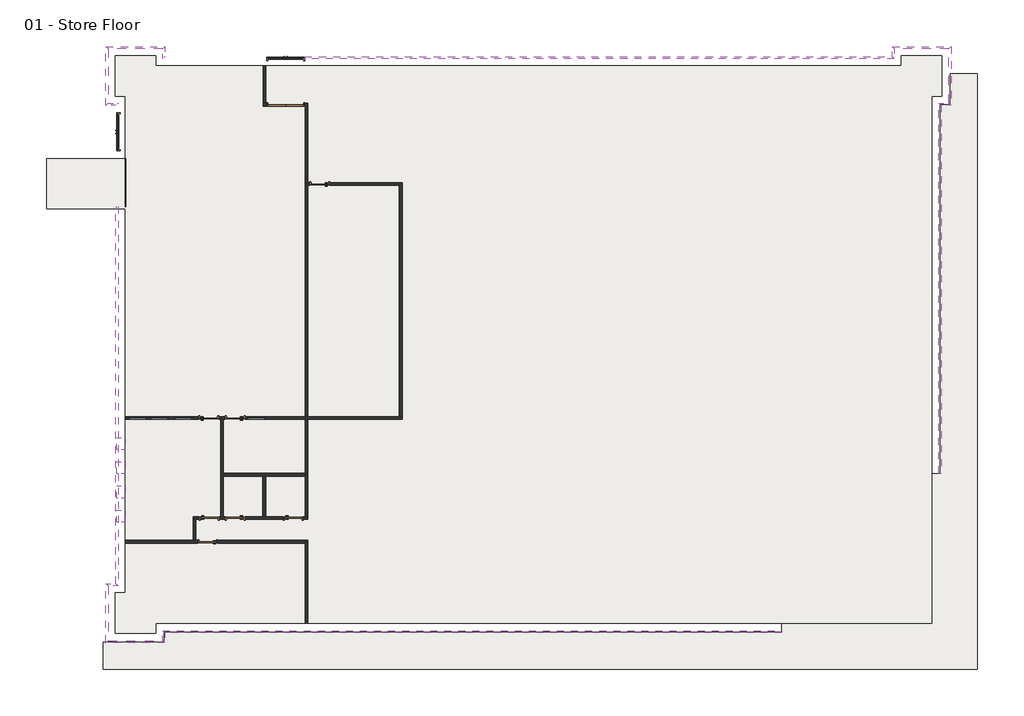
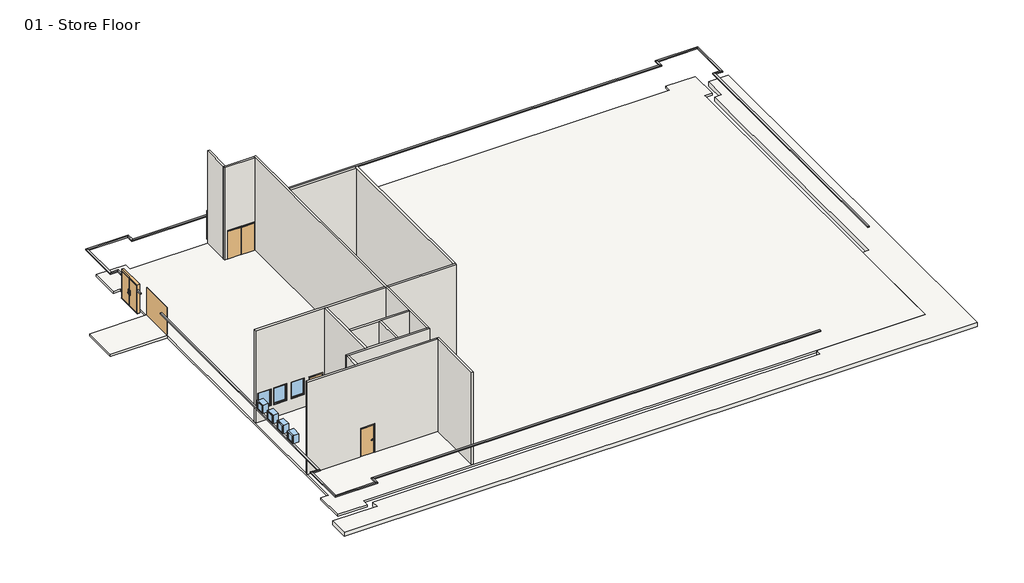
# One storey: 16 proxies, 13 walls, 11 doors, 8 windows, 2 slabs.
"""IFC4 building model written with IfcOpenShell, lengths in millimetres."""

from ifc_helpers import new_model, si_unit, frame, origin, origin_with_axes, place, context, project, spatial, polyline, outline, extrude, faceted_brep, transform, mapped, element, save
from components import m_door_exterior_double_1800_x_2000mm_23919ed1, m_door_exterior_double_1800_x_2000mm_bb9cb4d2, m_door_overhead_sectional_2400_x_2000mm_2e2bb5a0, m_door_passage_double_flush_dbl_acting_1800_x_2000mm_08d7c2af, m_door_passage_single_flush_900_x_2000mm_14e2eb9a, m_door_passage_single_flush_900_x_2000mm_70bd3cdf, m_fixed_0915_x_1220mm_bac45195, m_fixed_610_x_610mm_e5dd5360

model = new_model("IFC4")

# Units and contexts
model_context = context("Model", 3, world=origin())
ifc_project = project(units=[si_unit("LENGTHUNIT", "METRE", prefix="MILLI")], contexts=[model_context])

# Site, building, storey
site = spatial("IfcSite", under=ifc_project)
building = spatial("IfcBuilding", under=site)
storey = spatial("IfcBuildingStorey", under=building, Name="01 - Store Floor", Elevation=0.0)

# Proxies
placement = place(None, origin())
element("IfcBuildingElementProxy", 1, Name="Reveals", at=placement, inside=storey, context=model_context, shape_type="SweptSolid", body=[
    extrude(outline(polyline([(10855.5272279, -14331.9313057), (10855.5272279, -14434.4313057), (-20003.9727721, -14434.4313057), (-20106.4727721, -14331.9313057), (10855.5272279, -14331.9313057)])), frame((0.0, 0.0, 1675.0), z_axis=(0.0, 0.0, 1.0), x_axis=(1.0, 0.0, 0.0)), (0.0, 0.0, 1.0), 75.0),
])
element("IfcBuildingElementProxy", 2, Name="Reveals", at=placement, inside=storey, context=model_context, shape_type="SweptSolid", body=[
    extrude(outline(polyline([(-20106.4727721, -14331.9313057), (-20003.9727721, -14434.4313057), (-20003.9727721, -14934.2313057), (-20106.4727721, -14831.7313057), (-20106.4727721, -14331.9313057)])), frame((0.0, 0.0, 1675.0), z_axis=(0.0, 0.0, 1.0), x_axis=(1.0, 0.0, 0.0)), (0.0, 0.0, 1.0), 75.0),
])
element("IfcBuildingElementProxy", 3, Name="Reveals", at=placement, inside=storey, context=model_context, shape_type="SweptSolid", body=[
    extrude(outline(polyline([(-20106.4727721, -14831.7313057), (-20003.9727721, -14934.2313057), (-22946.9727721, -14934.2313057), (-22844.4727721, -14831.7313057), (-20106.4727721, -14831.7313057)])), frame((0.0, 0.0, 1675.0), z_axis=(0.0, 0.0, 1.0), x_axis=(1.0, 0.0, 0.0)), (0.0, 0.0, 1.0), 75.0),
])
element("IfcBuildingElementProxy", 4, Name="Reveals", at=placement, inside=storey, context=model_context, shape_type="SweptSolid", body=[
    extrude(outline(polyline([(-22844.4727721, -14831.7313057), (-22946.9727721, -14934.2313057), (-22946.9727721, -11991.2313057), (-22844.4727721, -12093.7313057), (-22844.4727721, -14831.7313057)])), frame((0.0, 0.0, 1675.0), z_axis=(0.0, 0.0, 1.0), x_axis=(1.0, 0.0, 0.0)), (0.0, 0.0, 1.0), 75.0),
])
element("IfcBuildingElementProxy", 5, Name="Reveals", at=placement, inside=storey, context=model_context, shape_type="SweptSolid", body=[
    extrude(outline(polyline([(-22844.4727721, -12093.7313057), (-22946.9727721, -11991.2313057), (-22446.9727721, -11991.2313057), (-22344.4727721, -12093.7313057), (-22844.4727721, -12093.7313057)])), frame((0.0, 0.0, 1675.0), z_axis=(0.0, 0.0, 1.0), x_axis=(1.0, 0.0, 0.0)), (0.0, 0.0, 1.0), 75.0),
])
element("IfcBuildingElementProxy", 6, Name="Reveals", at=placement, inside=storey, context=model_context, shape_type="SweptSolid", body=[
    extrude(outline(polyline([(-22344.4727721, 11555.0686943), (-22446.9727721, 11555.0686943), (-22446.9727721, 11927.5686943), (-22344.4727721, 12030.0686943), (-22344.4727721, 11555.0686943)])), frame((0.0, 0.0, 1675.0), z_axis=(0.0, 0.0, 1.0), x_axis=(1.0, 0.0, 0.0)), (0.0, 0.0, 1.0), 75.0),
    extrude(outline(polyline([(-22344.4727721, 9255.0686943), (-22446.9727721, 9255.0686943), (-22446.9727721, 9655.0686943), (-22344.4727721, 9655.0686943), (-22344.4727721, 9255.0686943)])), frame((0.0, 0.0, 1675.0), z_axis=(0.0, 0.0, 1.0), x_axis=(1.0, 0.0, 0.0)), (0.0, 0.0, 1.0), 75.0),
    extrude(outline(polyline([(-22344.4727721, -12093.7313057), (-22446.9727721, -11991.2313057), (-22446.9727721, 6855.0686943), (-22344.4727721, 6855.0686943), (-22344.4727721, -12093.7313057)])), frame((0.0, 0.0, 1675.0), z_axis=(0.0, 0.0, 1.0), x_axis=(1.0, 0.0, 0.0)), (0.0, 0.0, 1.0), 75.0),
])
element("IfcBuildingElementProxy", 7, Name="Reveals", at=placement, inside=storey, context=model_context, shape_type="SweptSolid", body=[
    extrude(outline(polyline([(-22344.4727721, 12030.0686943), (-22446.9727721, 11927.5686943), (-22946.9727721, 11927.5686943), (-22844.4727721, 12030.0686943), (-22344.4727721, 12030.0686943)])), frame((0.0, 0.0, 1675.0), z_axis=(0.0, 0.0, 1.0), x_axis=(1.0, 0.0, 0.0)), (0.0, 0.0, 1.0), 75.0),
])
element("IfcBuildingElementProxy", 8, Name="Reveals", at=placement, inside=storey, context=model_context, shape_type="SweptSolid", body=[
    extrude(outline(polyline([(-22844.4727721, 12030.0686943), (-22946.9727721, 11927.5686943), (-22946.9727721, 14870.5686943), (-22844.4727721, 14768.0686943), (-22844.4727721, 12030.0686943)])), frame((0.0, 0.0, 1675.0), z_axis=(0.0, 0.0, 1.0), x_axis=(1.0, 0.0, 0.0)), (0.0, 0.0, 1.0), 75.0),
])
element("IfcBuildingElementProxy", 9, Name="Reveals", at=placement, inside=storey, context=model_context, shape_type="SweptSolid", body=[
    extrude(outline(polyline([(-22844.4727721, 14768.0686943), (-22946.9727721, 14870.5686943), (-20003.9727721, 14870.5686943), (-20106.4727721, 14768.0686943), (-22844.4727721, 14768.0686943)])), frame((0.0, 0.0, 1675.0), z_axis=(0.0, 0.0, 1.0), x_axis=(1.0, 0.0, 0.0)), (0.0, 0.0, 1.0), 75.0),
])
element("IfcBuildingElementProxy", 10, Name="Reveals", at=placement, inside=storey, context=model_context, shape_type="SweptSolid", body=[
    extrude(outline(polyline([(-20106.4727721, 14768.0686943), (-20003.9727721, 14870.5686943), (-20003.9727721, 14370.5686943), (-20106.4727721, 14268.0686943), (-20106.4727721, 14768.0686943)])), frame((0.0, 0.0, 1675.0), z_axis=(0.0, 0.0, 1.0), x_axis=(1.0, 0.0, 0.0)), (0.0, 0.0, 1.0), 75.0),
])
element("IfcBuildingElementProxy", 11, Name="Reveals", at=placement, inside=storey, context=model_context, shape_type="SweptSolid", body=[
    extrude(outline(polyline([(-13012.4227721, 14268.0686943), (-13012.4227721, 14370.5686943), (16365.0272279, 14370.5686943), (16467.5272279, 14268.0686943), (-13012.4227721, 14268.0686943)])), frame((0.0, 0.0, 1675.0), z_axis=(0.0, 0.0, 1.0), x_axis=(1.0, 0.0, 0.0)), (0.0, 0.0, 1.0), 75.0),
    extrude(outline(polyline([(-20106.4727721, 14268.0686943), (-20003.9727721, 14370.5686943), (-14912.4227721, 14370.5686943), (-14912.4227721, 14268.0686943), (-20106.4727721, 14268.0686943)])), frame((0.0, 0.0, 1675.0), z_axis=(0.0, 0.0, 1.0), x_axis=(1.0, 0.0, 0.0)), (0.0, 0.0, 1.0), 75.0),
])
element("IfcBuildingElementProxy", 12, Name="Reveals", at=placement, inside=storey, context=model_context, shape_type="SweptSolid", body=[
    extrude(outline(polyline([(16467.5272279, 14268.0686943), (16365.0272279, 14370.5686943), (16365.0272279, 14870.5686943), (16467.5272279, 14768.0686943), (16467.5272279, 14268.0686943)])), frame((0.0, 0.0, 1675.0), z_axis=(0.0, 0.0, 1.0), x_axis=(1.0, 0.0, 0.0)), (0.0, 0.0, 1.0), 75.0),
])
element("IfcBuildingElementProxy", 13, Name="Reveals", at=placement, inside=storey, context=model_context, shape_type="SweptSolid", body=[
    extrude(outline(polyline([(16467.5272279, 14768.0686943), (16365.0272279, 14870.5686943), (19308.0272279, 14870.5686943), (19205.5272279, 14768.0686943), (16467.5272279, 14768.0686943)])), frame((0.0, 0.0, 1675.0), z_axis=(0.0, 0.0, 1.0), x_axis=(1.0, 0.0, 0.0)), (0.0, 0.0, 1.0), 75.0),
])
element("IfcBuildingElementProxy", 14, Name="Reveals", at=placement, inside=storey, context=model_context, shape_type="SweptSolid", body=[
    extrude(outline(polyline([(19205.5272279, 14768.0686943), (19308.0272279, 14870.5686943), (19308.0272279, 11927.5686943), (19205.5272279, 12030.0686943), (19205.5272279, 14768.0686943)])), frame((0.0, 0.0, 1675.0), z_axis=(0.0, 0.0, 1.0), x_axis=(1.0, 0.0, 0.0)), (0.0, 0.0, 1.0), 75.0),
])
element("IfcBuildingElementProxy", 15, Name="Reveals", at=placement, inside=storey, context=model_context, shape_type="SweptSolid", body=[
    extrude(outline(polyline([(19205.5272279, 12030.0686943), (19308.0272279, 11927.5686943), (18808.0272279, 11927.5686943), (18705.5272279, 12030.0686943), (19205.5272279, 12030.0686943)])), frame((0.0, 0.0, 1675.0), z_axis=(0.0, 0.0, 1.0), x_axis=(1.0, 0.0, 0.0)), (0.0, 0.0, 1.0), 75.0),
])
element("IfcBuildingElementProxy", 16, Name="Reveals", at=placement, inside=storey, context=model_context, shape_type="SweptSolid", body=[
    extrude(outline(polyline([(18705.5272279, 12030.0686943), (18808.0272279, 11927.5686943), (18808.0272279, -6481.9313057), (18705.5272279, -6481.9313057), (18705.5272279, 12030.0686943)])), frame((0.0, 0.0, 1675.0), z_axis=(0.0, 0.0, 1.0), x_axis=(1.0, 0.0, 0.0)), (0.0, 0.0, 1.0), 75.0),
])

# Doors
m_door_exterior_double_1800_x_2000mm_shape = m_door_exterior_double_1800_x_2000mm_23919ed1(model_context)
element("IfcDoor", 17, ObjectType="M_Door-Exterior-Double : 1800 x 2000mm", at=placement, inside=storey, context=model_context, shape_type="MappedRepresentation", body=[
    mapped(m_door_exterior_double_1800_x_2000mm_shape, transform((-13962.4227721, 14122.2186943, 0.0), x_axis=(-1.0, 0.0, 0.0), y_axis=(0.0, -1.0, 0.0), z_axis=(0.0, 0.0, 1.0))),
])
m_door_exterior_double_1800_x_2000mm_2_shape = m_door_exterior_double_1800_x_2000mm_bb9cb4d2(model_context)
element("IfcDoor", 18, ObjectType="M_Door-Exterior-Double : 1800 x 2000mm", at=placement, inside=storey, context=model_context, shape_type="MappedRepresentation", body=[
    mapped(m_door_exterior_double_1800_x_2000mm_2_shape, transform((-22198.6227721, 10605.0686943, 0.0), x_axis=(0.0, 1.0, 0.0), y_axis=(-1.0, 0.0, 0.0), z_axis=(0.0, 0.0, 1.0))),
])
m_door_overhead_sectional_2400_x_2000mm_shape = m_door_overhead_sectional_2400_x_2000mm_2e2bb5a0(model_context)
element("IfcDoor", 19, ObjectType="M_Door-Overhead-Sectional : 2400 x 2000mm", at=placement, inside=storey, context=model_context, shape_type="MappedRepresentation", body=[
    mapped(m_door_overhead_sectional_2400_x_2000mm_shape, transform((-22204.9727721, 8055.0686943, 0.0), x_axis=(0.0, 1.0, 0.0), y_axis=(-1.0, 0.0, 0.0), z_axis=(0.0, 0.0, 1.0))),
])
m_door_passage_double_flush_dbl_acting_1800_x_2000mm_shape = m_door_passage_double_flush_dbl_acting_1800_x_2000mm_08d7c2af(model_context)
element("IfcDoor", 20, ObjectType="M_Door-Passage-Double-Flush-Dbl_Acting : 1800 x 2000mm", at=placement, inside=storey, context=model_context, shape_type="MappedRepresentation", body=[
    mapped(m_door_passage_double_flush_dbl_acting_1800_x_2000mm_shape, transform((-13959.9477721, 11961.4186943, 0.0), x_axis=(-1.0, 0.0, 0.0), y_axis=(0.0, -1.0, 0.0), z_axis=(0.0, 0.0, 1.0))),
])
m_door_passage_single_flush_900_x_2000mm_shape = m_door_passage_single_flush_900_x_2000mm_14e2eb9a(model_context)
element("IfcDoor", 21, ObjectType="M_Door-Passage-Single-Flush : 900 x 2000mm", at=placement, inside=storey, context=model_context, shape_type="MappedRepresentation", body=[
    mapped(m_door_passage_single_flush_900_x_2000mm_shape, transform((-17819.4727721, -3700.5813057, 0.0), x_axis=(1.0, 0.0, 0.0), y_axis=(0.0, 1.0, 0.0), z_axis=(0.0, 0.0, 1.0))),
])
element("IfcDoor", 22, ObjectType="M_Door-Passage-Single-Flush : 900 x 2000mm", at=placement, inside=storey, context=model_context, shape_type="MappedRepresentation", body=[
    mapped(m_door_passage_single_flush_900_x_2000mm_shape, transform((-16480.9727721, -8713.2813057, 0.0), x_axis=(-1.0, 0.0, 0.0), y_axis=(0.0, -1.0, 0.0), z_axis=(0.0, 0.0, 1.0))),
])
m_door_passage_single_flush_900_x_2000mm_2_shape = m_door_passage_single_flush_900_x_2000mm_70bd3cdf(model_context)
element("IfcDoor", 23, ObjectType="M_Door-Passage-Single-Flush : 900 x 2000mm", at=placement, inside=storey, context=model_context, shape_type="MappedRepresentation", body=[
    mapped(m_door_passage_single_flush_900_x_2000mm_2_shape, transform((-16480.9727721, -3700.5813057, 0.0), x_axis=(-1.0, 0.0, 0.0), y_axis=(0.0, -1.0, 0.0), z_axis=(0.0, 0.0, 1.0))),
])
element("IfcDoor", 24, ObjectType="M_Door-Passage-Single-Flush : 900 x 2000mm", at=placement, inside=storey, context=model_context, shape_type="MappedRepresentation", body=[
    mapped(m_door_passage_single_flush_900_x_2000mm_2_shape, transform((-13588.7227721, -8713.2813057, 0.0), x_axis=(1.0, 0.0, 0.0), y_axis=(0.0, 1.0, 0.0), z_axis=(0.0, 0.0, 1.0))),
])
element("IfcDoor", 25, ObjectType="M_Door-Passage-Single-Flush : 900 x 2000mm", at=placement, inside=storey, context=model_context, shape_type="MappedRepresentation", body=[
    mapped(m_door_passage_single_flush_900_x_2000mm_2_shape, transform((-17795.5977721, -8713.2813057, 0.0), x_axis=(1.0, 0.0, 0.0), y_axis=(0.0, 1.0, 0.0), z_axis=(0.0, 0.0, 1.0))),
])
element("IfcDoor", 26, ObjectType="M_Door-Passage-Single-Flush : 900 x 2000mm", at=placement, inside=storey, context=model_context, shape_type="MappedRepresentation", body=[
    mapped(m_door_passage_single_flush_900_x_2000mm_2_shape, transform((-17850.2227721, -9889.0813057, 0.0), x_axis=(-1.0, 0.0, 0.0), y_axis=(0.0, -1.0, 0.0), z_axis=(0.0, 0.0, 1.0))),
])
element("IfcDoor", 27, ObjectType="M_Door-Passage-Single-Flush : 900 x 2000mm", at=placement, inside=storey, context=model_context, shape_type="MappedRepresentation", body=[
    mapped(m_door_passage_single_flush_900_x_2000mm_2_shape, transform((-12250.2227721, 7999.4186943, 0.0), x_axis=(-1.0, 0.0, 0.0), y_axis=(0.0, -1.0, 0.0), z_axis=(0.0, 0.0, 1.0))),
])

# Slabs
element("IfcSlab", 28, ObjectType="Generic 150mm", at=placement, inside=storey, context=model_context, shape_type="SweptSolid", body=[
    extrude(outline(polyline([(16821.5272279, 13914.0686943), (16821.5272279, 14414.0686943), (18851.5272279, 14414.0686943), (18851.5272279, 12384.0686943), (18351.5272279, 12384.0686943), (18351.5272279, -6481.9313057), (18351.5272279, -13977.9313057), (10855.5272279, -13977.9313057), (-20460.4727721, -13977.9313057), (-20460.4727721, -14477.7313057), (-22490.4727721, -14477.7313057), (-22490.4727721, -12447.7313057), (-21990.4727721, -12447.7313057), (-21990.4727721, 6772.0686943), (-25919.4727721, 6772.0686943), (-25919.4727721, 9272.0686943), (-21990.4727721, 9272.0686943), (-21990.4727721, 12384.0686943), (-22490.4727721, 12384.0686943), (-22490.4727721, 14414.0686943), (-20460.4727721, 14414.0686943), (-20460.4727721, 13914.0686943), (16821.5272279, 13914.0686943)])), frame((0.0, 0.0, -150.0), z_axis=(0.0, 0.0, 1.0), x_axis=(1.0, 0.0, 0.0)), (0.0, 0.0, 1.0), 150.0),
])
element("IfcSlab", 29, ObjectType="Generic 300mm", at=placement, inside=storey, context=model_context, shape_type="SweptSolid", body=[
    extrude(outline(polyline([(20630.5272279, -16256.9313057), (-23090.4727721, -16256.9313057), (-23090.4727721, -14906.7313057), (-20031.4727721, -14906.7313057), (-20031.4727721, -14406.9313057), (10855.5272279, -14406.9313057), (10855.5272279, -13977.9313057), (18351.5272279, -13977.9313057), (18351.5272279, -6481.9313057), (18780.5272279, -6481.9313057), (18780.5272279, 11955.0686943), (19280.5272279, 11955.0686943), (19280.5272279, 13514.0686943), (20630.5272279, 13514.0686943), (20630.5272279, -16256.9313057)])), frame((0.0, 0.0, -300.0), z_axis=(0.0, 0.0, 1.0), x_axis=(1.0, 0.0, 0.0)), (0.0, 0.0, 1.0), 300.0),
])

# Walls
element("IfcWall", 30, ObjectType="Interior - 138mm Partition (1-hr)", at=placement, inside=storey, context=model_context, shape_type="Brep", body=[
    faceted_brep([(-12850.2227721, -13977.9313057, 0.0), (-12850.2227721, -9826.1813057, 0.0), (-12850.2227721, -9826.1813057, 6750.0), (-12850.2227721, -13977.9313057, 6750.0), (-12988.7227721, -13977.9313057, 0.0), (-12988.7227721, -13977.9313057, 6750.0), (-12988.7227721, -9964.6813057, 6750.0), (-12988.7227721, -9826.1813057, 6750.0), (-12988.7227721, -9826.1813057, 0.0), (-12988.7227721, -9964.6813057, 0.0)], [[[0, 1, 2, 3]], [[4, 5, 6, 7, 8, 9]], [[1, 0, 4, 9, 8]], [[0, 3, 5, 4]], [[2, 1, 8, 7]], [[3, 2, 7, 6, 5]]]),
])
element("IfcWall", 31, ObjectType="Interior - 138mm Partition (1-hr)", at=placement, inside=storey, context=model_context, shape_type="Brep", body=[
    faceted_brep([(-12988.7227721, 12024.3186943, 6750.0), (-12988.7227721, 12024.3186943, 0.0), (-13009.9477721, 12024.3186943, 0.0), (-13009.9477721, 12024.3186943, 2100.0), (-14909.9477721, 12024.3186943, 2100.0), (-14909.9477721, 12024.3186943, 0.0), (-14950.2227721, 12024.3186943, 0.0), (-15088.7227721, 12024.3186943, 0.0), (-15088.7227721, 12024.3186943, 6750.0), (-14950.2227721, 12024.3186943, 6750.0), (-12988.7227721, 11885.8186943, 0.0), (-12988.7227721, 11885.8186943, 6750.0), (-15088.7227721, 11885.8186943, 6750.0), (-15088.7227721, 11885.8186943, 0.0), (-14909.9477721, 11885.8186943, 0.0), (-14909.9477721, 11885.8186943, 2100.0), (-13009.9477721, 11885.8186943, 2100.0), (-13009.9477721, 11885.8186943, 0.0)], [[[0, 1, 2, 3, 4, 5, 6, 7, 8, 9]], [[10, 11, 12, 13, 14, 15, 16, 17]], [[1, 10, 17, 2]], [[13, 7, 6, 5, 14]], [[1, 0, 11, 10]], [[8, 7, 13, 12]], [[0, 9, 8, 12, 11]], [[4, 15, 14, 5]], [[15, 4, 3, 16]], [[16, 3, 2, 17]]]),
])
element("IfcWall", 32, ObjectType="Interior - 138mm Partition (1-hr)", at=placement, inside=storey, context=model_context, shape_type="SweptSolid", body=[
    extrude(outline(polyline([(-14950.2227721, 13914.0686943), (-14950.2227721, 12024.3186943), (-15088.7227721, 12024.3186943), (-15088.7227721, 13914.0686943), (-14950.2227721, 13914.0686943)])), origin_with_axes(), (0.0, 0.0, 1.0), 6750.0),
])
element("IfcWall", 33, ObjectType="Interior - 138mm Partition (1-hr)", at=placement, inside=storey, context=model_context, shape_type="Brep", body=[
    faceted_brep([(-18588.7227721, -8637.6813057, 0.0), (-18588.7227721, -8637.6813057, 6750.0), (-17219.4727721, -8637.6813057, 6750.0), (-17080.9727721, -8637.6813057, 6750.0), (-15104.0977721, -8637.6813057, 6750.0), (-14965.5977721, -8637.6813057, 6750.0), (-12988.7227721, -8637.6813057, 6750.0), (-12850.2227721, -8637.6813057, 6750.0), (-12850.2227721, -8637.6813057, 0.0), (-12988.7227721, -8637.6813057, 0.0), (-13088.7227721, -8637.6813057, 0.0), (-13088.7227721, -8637.6813057, 2100.0), (-14088.7227721, -8637.6813057, 2100.0), (-14088.7227721, -8637.6813057, 0.0), (-14965.5977721, -8637.6813057, 0.0), (-15104.0977721, -8637.6813057, 0.0), (-15980.9727721, -8637.6813057, 0.0), (-15980.9727721, -8637.6813057, 2100.0), (-16980.9727721, -8637.6813057, 2100.0), (-16980.9727721, -8637.6813057, 0.0), (-17080.9727721, -8637.6813057, 0.0), (-17219.4727721, -8637.6813057, 0.0), (-17295.5977721, -8637.6813057, 0.0), (-17295.5977721, -8637.6813057, 2100.0), (-18295.5977721, -8637.6813057, 2100.0), (-18295.5977721, -8637.6813057, 0.0), (-18588.7227721, -8776.1813057, 6750.0), (-18588.7227721, -8776.1813057, 0.0), (-18450.2227721, -8776.1813057, 0.0), (-18295.5977721, -8776.1813057, 0.0), (-18295.5977721, -8776.1813057, 2100.0), (-17295.5977721, -8776.1813057, 2100.0), (-17295.5977721, -8776.1813057, 0.0), (-16980.9727721, -8776.1813057, 0.0), (-16980.9727721, -8776.1813057, 2100.0), (-15980.9727721, -8776.1813057, 2100.0), (-15980.9727721, -8776.1813057, 0.0), (-14088.7227721, -8776.1813057, 0.0), (-14088.7227721, -8776.1813057, 2100.0), (-13088.7227721, -8776.1813057, 2100.0), (-13088.7227721, -8776.1813057, 0.0), (-12850.2227721, -8776.1813057, 0.0), (-12850.2227721, -8776.1813057, 6750.0), (-18450.2227721, -8776.1813057, 6750.0)], [[[0, 1, 2, 3, 4, 5, 6, 7, 8, 9, 10, 11, 12, 13, 14, 15, 16, 17, 18, 19, 20, 21, 22, 23, 24, 25]], [[26, 27, 28, 29, 30, 31, 32, 33, 34, 35, 36, 37, 38, 39, 40, 41, 42, 43]], [[27, 0, 25, 29, 28]], [[8, 41, 40, 10, 9]], [[19, 33, 32, 22, 21, 20]], [[36, 16, 15, 14, 13, 37]], [[1, 0, 27, 26]], [[8, 7, 42, 41]], [[7, 6, 5, 4, 3, 2, 1, 26, 43, 42]], [[18, 34, 33, 19]], [[34, 18, 17, 35]], [[35, 17, 16, 36]], [[39, 11, 10, 40]], [[11, 39, 38, 12]], [[12, 38, 37, 13]], [[31, 23, 22, 32]], [[23, 31, 30, 24]], [[24, 30, 29, 25]]]),
])
element("IfcWall", 34, ObjectType="Interior - 138mm Partition (1-hr)", at=placement, inside=storey, context=model_context, shape_type="SweptSolid", body=[
    extrude(outline(polyline([(-18588.7227721, -9826.1813057), (-18588.7227721, -8776.1813057), (-18450.2227721, -8776.1813057), (-18450.2227721, -9826.1813057), (-18588.7227721, -9826.1813057)])), origin_with_axes(), (0.0, 0.0, 1.0), 6750.0),
])
element("IfcWall", 35, ObjectType="Interior - 138mm Partition (1-hr)", at=placement, inside=storey, context=model_context, shape_type="Brep", body=[
    faceted_brep([(-21990.4727721, -9964.6813057, 6750.0), (-21990.4727721, -9964.6813057, 0.0), (-18350.2227721, -9964.6813057, 0.0), (-18350.2227721, -9964.6813057, 2100.0), (-17350.2227721, -9964.6813057, 2100.0), (-17350.2227721, -9964.6813057, 0.0), (-12988.7227721, -9964.6813057, 0.0), (-12988.7227721, -9964.6813057, 6750.0), (-21990.4727721, -9826.1813057, 0.0), (-21990.4727721, -9826.1813057, 6750.0), (-18588.7227721, -9826.1813057, 6750.0), (-18450.2227721, -9826.1813057, 6750.0), (-12988.7227721, -9826.1813057, 6750.0), (-12988.7227721, -9826.1813057, 0.0), (-17350.2227721, -9826.1813057, 0.0), (-17350.2227721, -9826.1813057, 2100.0), (-18350.2227721, -9826.1813057, 2100.0), (-18350.2227721, -9826.1813057, 0.0), (-18450.2227721, -9826.1813057, 0.0), (-18588.7227721, -9826.1813057, 0.0)], [[[0, 1, 2, 3, 4, 5, 6, 7]], [[8, 9, 10, 11, 12, 13, 14, 15, 16, 17, 18, 19]], [[1, 8, 19, 18, 17, 2]], [[13, 6, 5, 14]], [[1, 0, 9, 8]], [[7, 6, 13, 12]], [[0, 7, 12, 11, 10, 9]], [[16, 3, 2, 17]], [[3, 16, 15, 4]], [[4, 15, 14, 5]]]),
])
element("IfcWall", 36, ObjectType="Interior - 138mm Partition (1-hr)", at=placement, inside=storey, context=model_context, shape_type="Brep", body=[
    faceted_brep([(-17080.9727721, -8637.6813057, 0.0), (-17080.9727721, -6606.9313057, 0.0), (-17080.9727721, -6468.4313057, 0.0), (-17080.9727721, -3776.1813057, 0.0), (-17080.9727721, -3776.1813057, 6750.0), (-17080.9727721, -6468.4313057, 6750.0), (-17080.9727721, -6606.9313057, 6750.0), (-17080.9727721, -8637.6813057, 6750.0), (-17219.4727721, -8637.6813057, 0.0), (-17219.4727721, -8637.6813057, 6750.0), (-17219.4727721, -3776.1813057, 6750.0), (-17219.4727721, -3776.1813057, 0.0)], [[[0, 1, 2, 3, 4, 5, 6, 7]], [[8, 9, 10, 11]], [[3, 2, 1, 0, 8, 11]], [[0, 7, 9, 8]], [[4, 3, 11, 10]], [[7, 6, 5, 4, 10, 9]]]),
])
element("IfcWall", 37, ObjectType="Interior - 138mm Partition (1-hr)", at=placement, inside=storey, context=model_context, shape_type="Brep", body=[
    faceted_brep([(-21990.4727721, -3637.6813057, 0.0), (-21990.4727721, -3637.6813057, 6750.0), (-12988.7227721, -3637.6813057, 6750.0), (-12988.7227721, -3637.6813057, 0.0), (-15980.9727721, -3637.6813057, 0.0), (-15980.9727721, -3637.6813057, 2100.0), (-16980.9727721, -3637.6813057, 2100.0), (-16980.9727721, -3637.6813057, 0.0), (-17319.4727721, -3637.6813057, 0.0), (-17319.4727721, -3637.6813057, 2100.0), (-18319.4727721, -3637.6813057, 2100.0), (-18319.4727721, -3637.6813057, 0.0), (-15880.9727721, -3637.6813057, 2135.0), (-15880.9727721, -3637.6813057, 915.0), (-14965.9727721, -3637.6813057, 915.0), (-14965.9727721, -3637.6813057, 2135.0), (-19534.4727721, -3637.6813057, 2135.0), (-19534.4727721, -3637.6813057, 915.0), (-18619.4727721, -3637.6813057, 915.0), (-18619.4727721, -3637.6813057, 2135.0), (-20749.4727721, -3637.6813057, 2135.0), (-20749.4727721, -3637.6813057, 915.0), (-19834.4727721, -3637.6813057, 915.0), (-19834.4727721, -3637.6813057, 2135.0), (-21827.4727721, -3637.6813057, 2135.0), (-21827.4727721, -3637.6813057, 915.0), (-20912.4727721, -3637.6813057, 915.0), (-20912.4727721, -3637.6813057, 2135.0), (-21990.4727721, -3776.1813057, 6750.0), (-21990.4727721, -3776.1813057, 0.0), (-18319.4727721, -3776.1813057, 0.0), (-18319.4727721, -3776.1813057, 2100.0), (-17319.4727721, -3776.1813057, 2100.0), (-17319.4727721, -3776.1813057, 0.0), (-17219.4727721, -3776.1813057, 0.0), (-17080.9727721, -3776.1813057, 0.0), (-16980.9727721, -3776.1813057, 0.0), (-16980.9727721, -3776.1813057, 2100.0), (-15980.9727721, -3776.1813057, 2100.0), (-15980.9727721, -3776.1813057, 0.0), (-12988.7227721, -3776.1813057, 0.0), (-12988.7227721, -3776.1813057, 6750.0), (-17080.9727721, -3776.1813057, 6750.0), (-17219.4727721, -3776.1813057, 6750.0), (-15880.9727721, -3776.1813057, 915.0), (-15880.9727721, -3776.1813057, 2135.0), (-14965.9727721, -3776.1813057, 2135.0), (-14965.9727721, -3776.1813057, 915.0), (-19534.4727721, -3776.1813057, 915.0), (-19534.4727721, -3776.1813057, 2135.0), (-18619.4727721, -3776.1813057, 2135.0), (-18619.4727721, -3776.1813057, 915.0), (-20749.4727721, -3776.1813057, 915.0), (-20749.4727721, -3776.1813057, 2135.0), (-19834.4727721, -3776.1813057, 2135.0), (-19834.4727721, -3776.1813057, 915.0), (-21827.4727721, -3776.1813057, 915.0), (-21827.4727721, -3776.1813057, 2135.0), (-20912.4727721, -3776.1813057, 2135.0), (-20912.4727721, -3776.1813057, 915.0)], [[[0, 1, 2, 3, 4, 5, 6, 7, 8, 9, 10, 11], [12, 13, 14, 15], [16, 17, 18, 19], [20, 21, 22, 23], [24, 25, 26, 27]], [[28, 29, 30, 31, 32, 33, 34, 35, 36, 37, 38, 39, 40, 41, 42, 43], [44, 45, 46, 47], [48, 49, 50, 51], [52, 53, 54, 55], [56, 57, 58, 59]], [[29, 0, 11, 30]], [[33, 8, 7, 36, 35, 34]], [[39, 4, 3, 40]], [[1, 0, 29, 28]], [[3, 2, 41, 40]], [[1, 28, 43, 42, 41, 2]], [[32, 9, 8, 33]], [[9, 32, 31, 10]], [[10, 31, 30, 11]], [[6, 37, 36, 7]], [[37, 6, 5, 38]], [[38, 5, 4, 39]], [[45, 44, 13, 12]], [[46, 45, 12, 15]], [[47, 46, 15, 14]], [[44, 47, 14, 13]], [[49, 48, 17, 16]], [[50, 49, 16, 19]], [[51, 50, 19, 18]], [[48, 51, 18, 17]], [[53, 52, 21, 20]], [[54, 53, 20, 23]], [[55, 54, 23, 22]], [[52, 55, 22, 21]], [[57, 56, 25, 24]], [[58, 57, 24, 27]], [[59, 58, 27, 26]], [[56, 59, 26, 25]]]),
    faceted_brep([(-8135.7227721, -3637.6813057, 6750.0), (-8135.7227721, -3637.6813057, 0.0), (-8274.2227721, -3637.6813057, 0.0), (-12850.2227721, -3637.6813057, 0.0), (-12850.2227721, -3637.6813057, 6750.0), (-8274.2227721, -3637.6813057, 6750.0), (-8135.7227721, -3776.1813057, 0.0), (-8135.7227721, -3776.1813057, 6750.0), (-12850.2227721, -3776.1813057, 6750.0), (-12850.2227721, -3776.1813057, 0.0)], [[[0, 1, 2, 3, 4, 5]], [[6, 7, 8, 9]], [[1, 6, 9, 3, 2]], [[1, 0, 7, 6]], [[4, 3, 9, 8]], [[7, 0, 5, 4, 8]]]),
])
element("IfcWall", 38, ObjectType="Interior - 138mm Partition (1-hr)", at=placement, inside=storey, context=model_context, shape_type="Brep", body=[
    faceted_brep([(-8135.7227721, -3637.6813057, 0.0), (-8135.7227721, 8062.3186943, 0.0), (-8135.7227721, 8062.3186943, 6750.0), (-8135.7227721, -3637.6813057, 6750.0), (-8274.2227721, -3637.6813057, 0.0), (-8274.2227721, -3637.6813057, 6750.0), (-8274.2227721, 7923.8186943, 6750.0), (-8274.2227721, 8062.3186943, 6750.0), (-8274.2227721, 8062.3186943, 0.0), (-8274.2227721, 7923.8186943, 0.0)], [[[0, 1, 2, 3]], [[4, 5, 6, 7, 8, 9]], [[1, 0, 4, 9, 8]], [[0, 3, 5, 4]], [[2, 1, 8, 7]], [[3, 2, 7, 6, 5]]]),
])
element("IfcWall", 39, ObjectType="Interior - 138mm Partition (1-hr)", at=placement, inside=storey, context=model_context, shape_type="SweptSolid", body=[
    extrude(outline(polyline([(0.0, -8274.2227721), (6750.0, -8274.2227721), (6750.0, -12850.2227721), (0.0, -12850.2227721), (0.0, -12750.2227721), (2100.0, -12750.2227721), (2100.0, -11750.2227721), (0.0, -11750.2227721), (0.0, -8274.2227721)])), frame((0.0, 7923.8186943, 0.0), z_axis=(0.0, 1.0, 0.0), x_axis=(0.0, 0.0, 1.0)), (0.0, 0.0, 1.0), 138.5),
])
element("IfcWall", 40, ObjectType="Interior - 138mm Partition (1-hr)", at=placement, inside=storey, context=model_context, shape_type="Brep", body=[
    faceted_brep([(-12988.7227721, -6468.4313057, 0.0), (-17080.9727721, -6468.4313057, 0.0), (-17080.9727721, -6468.4313057, 6750.0), (-12988.7227721, -6468.4313057, 6750.0), (-12988.7227721, -6606.9313057, 0.0), (-12988.7227721, -6606.9313057, 6750.0), (-14965.5977721, -6606.9313057, 6750.0), (-15104.0977721, -6606.9313057, 6750.0), (-17080.9727721, -6606.9313057, 6750.0), (-17080.9727721, -6606.9313057, 0.0), (-15104.0977721, -6606.9313057, 0.0), (-14965.5977721, -6606.9313057, 0.0)], [[[0, 1, 2, 3]], [[4, 5, 6, 7, 8, 9, 10, 11]], [[1, 0, 4, 11, 10, 9]], [[0, 3, 5, 4]], [[2, 1, 9, 8]], [[3, 2, 8, 7, 6, 5]]]),
])
element("IfcWall", 41, ObjectType="Interior - 138mm Partition (1-hr)", at=placement, inside=storey, context=model_context, shape_type="SweptSolid", body=[
    extrude(outline(polyline([(-15104.0977721, -8637.6813057), (-15104.0977721, -6606.9313057), (-14965.5977721, -6606.9313057), (-14965.5977721, -8637.6813057), (-15104.0977721, -8637.6813057)])), origin_with_axes(), (0.0, 0.0, 1.0), 6750.0),
])
element("IfcWall", 42, ObjectType="Interior - 138mm Partition (1-hr)", at=placement, inside=storey, context=model_context, shape_type="Brep", body=[
    faceted_brep([(-12850.2227721, -8637.6813057, 0.0), (-12850.2227721, -3776.1813057, 0.0), (-12850.2227721, -3637.6813057, 0.0), (-12850.2227721, 7923.8186943, 0.0), (-12850.2227721, 8062.3186943, 0.0), (-12850.2227721, 12024.3186943, 0.0), (-12850.2227721, 12024.3186943, 6750.0), (-12850.2227721, 8062.3186943, 6750.0), (-12850.2227721, 7923.8186943, 6750.0), (-12850.2227721, -3637.6813057, 6750.0), (-12850.2227721, -3776.1813057, 6750.0), (-12850.2227721, -8637.6813057, 6750.0), (-12988.7227721, -8637.6813057, 0.0), (-12988.7227721, -8637.6813057, 6750.0), (-12988.7227721, -6606.9313057, 6750.0), (-12988.7227721, -6468.4313057, 6750.0), (-12988.7227721, -3776.1813057, 6750.0), (-12988.7227721, -3637.6813057, 6750.0), (-12988.7227721, 11885.8186943, 6750.0), (-12988.7227721, 12024.3186943, 6750.0), (-12988.7227721, 12024.3186943, 0.0), (-12988.7227721, 11885.8186943, 0.0), (-12988.7227721, -3637.6813057, 0.0), (-12988.7227721, -3776.1813057, 0.0), (-12988.7227721, -6468.4313057, 0.0), (-12988.7227721, -6606.9313057, 0.0)], [[[0, 1, 2, 3, 4, 5, 6, 7, 8, 9, 10, 11]], [[12, 13, 14, 15, 16, 17, 18, 19, 20, 21, 22, 23, 24, 25]], [[5, 4, 3, 2, 1, 0, 12, 25, 24, 23, 22, 21, 20]], [[6, 5, 20, 19]], [[0, 11, 13, 12]], [[11, 10, 9, 8, 7, 6, 19, 18, 17, 16, 15, 14, 13]]]),
])

# Windows
m_fixed_0915_x_1220mm_shape = m_fixed_0915_x_1220mm_bac45195(model_context)
element("IfcWindow", 43, ObjectType="M_Fixed : 0915 x 1220mm", at=placement, inside=storey, context=model_context, shape_type="MappedRepresentation", body=[
    mapped(m_fixed_0915_x_1220mm_shape, transform((-15423.4727721, -3719.9313057, 0.0), x_axis=(1.0, 0.0, 0.0), y_axis=(0.0, 1.0, 0.0), z_axis=(0.0, 0.0, 1.0))),
])
element("IfcWindow", 44, ObjectType="M_Fixed : 0915 x 1220mm", at=placement, inside=storey, context=model_context, shape_type="MappedRepresentation", body=[
    mapped(m_fixed_0915_x_1220mm_shape, transform((-19076.9727721, -3719.9313057, 0.0), x_axis=(1.0, 0.0, 0.0), y_axis=(0.0, 1.0, 0.0), z_axis=(0.0, 0.0, 1.0))),
])
element("IfcWindow", 45, ObjectType="M_Fixed : 0915 x 1220mm", at=placement, inside=storey, context=model_context, shape_type="MappedRepresentation", body=[
    mapped(m_fixed_0915_x_1220mm_shape, transform((-20291.9727721, -3719.9313057, 0.0), x_axis=(1.0, 0.0, 0.0), y_axis=(0.0, 1.0, 0.0), z_axis=(0.0, 0.0, 1.0))),
])
element("IfcWindow", 46, ObjectType="M_Fixed : 0915 x 1220mm", at=placement, inside=storey, context=model_context, shape_type="MappedRepresentation", body=[
    mapped(m_fixed_0915_x_1220mm_shape, transform((-21369.9727721, -3719.9313057, 0.0), x_axis=(1.0, 0.0, 0.0), y_axis=(0.0, 1.0, 0.0), z_axis=(0.0, 0.0, 1.0))),
])
m_fixed_610_x_610mm_shape = m_fixed_610_x_610mm_e5dd5360(model_context)
element("IfcWindow", 47, ObjectType="M_Fixed : 610 x 610mm", at=placement, inside=storey, context=model_context, shape_type="MappedRepresentation", body=[
    mapped(m_fixed_610_x_610mm_shape, transform((-22191.9727721, -4986.1813057, 835.0), x_axis=(0.0, 1.0, 0.0), y_axis=(-1.0, 0.0, 0.0), z_axis=(0.0, 0.0, 1.0))),
])
element("IfcWindow", 48, ObjectType="M_Fixed : 610 x 610mm", at=placement, inside=storey, context=model_context, shape_type="MappedRepresentation", body=[
    mapped(m_fixed_610_x_610mm_shape, transform((-22191.9727721, -6196.1813057, 835.0), x_axis=(0.0, 1.0, 0.0), y_axis=(-1.0, 0.0, 0.0), z_axis=(0.0, 0.0, 1.0))),
])
element("IfcWindow", 49, ObjectType="M_Fixed : 610 x 610mm", at=placement, inside=storey, context=model_context, shape_type="MappedRepresentation", body=[
    mapped(m_fixed_610_x_610mm_shape, transform((-22191.9727721, -7406.1813057, 835.0), x_axis=(0.0, 1.0, 0.0), y_axis=(-1.0, 0.0, 0.0), z_axis=(0.0, 0.0, 1.0))),
])
element("IfcWindow", 50, ObjectType="M_Fixed : 610 x 610mm", at=placement, inside=storey, context=model_context, shape_type="MappedRepresentation", body=[
    mapped(m_fixed_610_x_610mm_shape, transform((-22191.9727721, -8616.1813057, 835.0), x_axis=(0.0, 1.0, 0.0), y_axis=(-1.0, 0.0, 0.0), z_axis=(0.0, 0.0, 1.0))),
])

save(model, "model.ifc")
